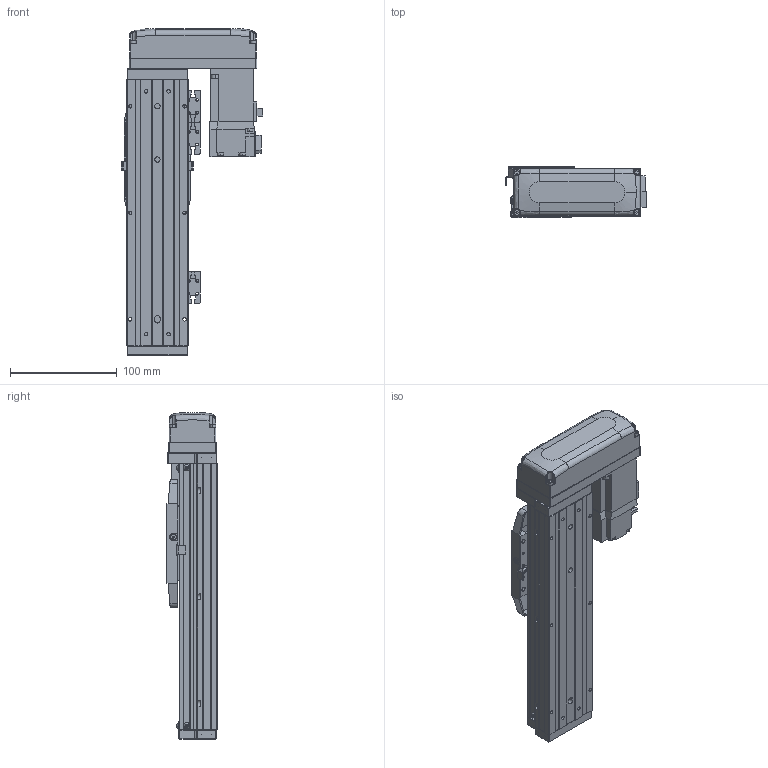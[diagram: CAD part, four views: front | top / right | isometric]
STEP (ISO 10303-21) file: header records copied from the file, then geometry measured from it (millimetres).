
FILE_DESCRIPTION (( 'STEP AP203' ), '1' );
FILE_NAME ('CTHA50-100-BL-M10-C4L.step', '2022-03-19T05:58:48', ( '微软用户' ), ( '微软中国' ), 'SwSTEP 2.0', 'SolidWorks 2020', '' );
FILE_SCHEMA (( 'CONFIG_CONTROL_DESIGN' ));
Length unit declared in the file: millimetre
Products named in the file (20): CTHA60-016; CTHA50-015-2_CTHA60-015-2; GB¨uT 70.2-M3¡Á6_M3¡Á6; CTHA60-021; CTHA60-033; EE_SX911P_R; HG-KR13（三菱）; GBT 70.1-M3×15; GBT77-2000 M3×3; CTHA50-002; CTHA50-100-BL-M10-C4L; GBT 70.1-M3℅6; CTHA50-030; KTHA50-001_250; CTHA60-017; CTHA50-031; KTHA50-004; GBT 70.1-M4×12; GBT 70.3-M3℅6; KTHA50-005
Assembly tree (60 placements, depth 2):
  CTHA50-100-BL-M10-C4L
    KTHA50-001_250
    KTHA50-004
    KTHA50-005
    GB¨uT 70.2-M3¡Á6_M3¡Á6  x10
    EE_SX911P_R  x3
    GBT77-2000 M3×3  x6
    GBT 70.1-M3℅6  x6
    CTHA60-017  x3
    GBT 70.1-M4×12  x10
    CTHA60-016  x2
    CTHA60-021  x2
    HG-KR13（三菱）
    CTHA50-002
    CTHA50-030  x2
    CTHA50-031
    GBT 70.3-M3℅6  x4
    CTHA50-015-2_CTHA60-015-2
    CTHA60-033
    GBT 70.1-M3×15  x4
Bounding box: 132.6 x 48 x 307 mm (x, y, z)
Volume: 800220 mm3; surface area: 211829.3 mm2
Topology: 62 solids, 62 shells, 2453 faces, 5799 edges, 3546 vertices
Faces by surface type: plane 1386, cylinder 564, cone 345, torus 108, bspline 26, sphere 24
Entity records: 40747 total; most frequent: CARTESIAN_POINT 7547, DIRECTION 6315, ORIENTED_EDGE 6106, EDGE_CURVE 3053, LINE 2127, VECTOR 2127, AXIS2_PLACEMENT_3D 2094, VERTEX_POINT 1920
